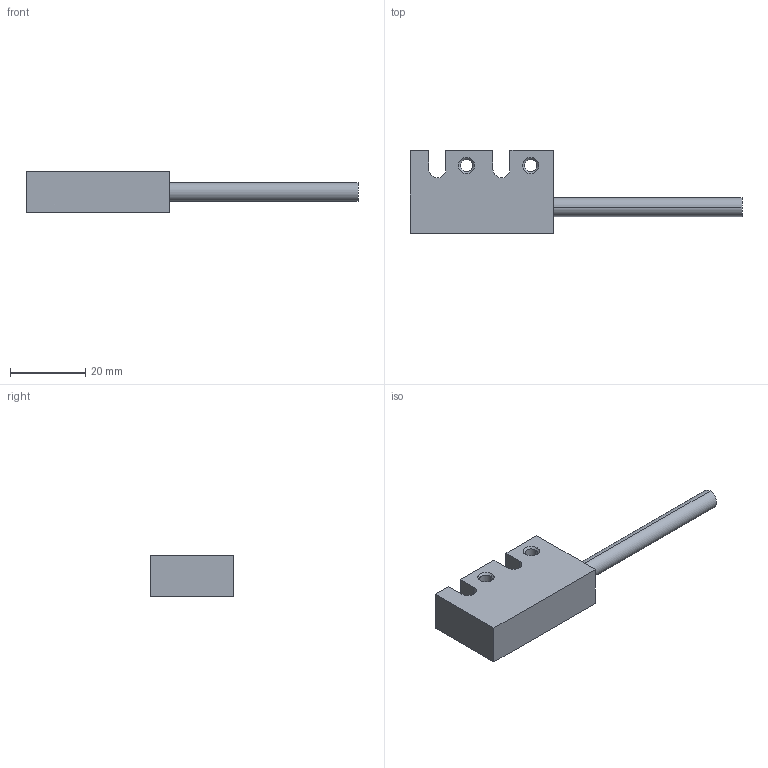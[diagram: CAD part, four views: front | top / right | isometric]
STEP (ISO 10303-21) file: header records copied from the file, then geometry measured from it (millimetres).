
FILE_DESCRIPTION (( 'STEP AP203' ), '1' );
FILE_NAME ('TMLS-25B.STEP', '2017-10-05T17:50:16', ( '' ), ( '' ), 'SwSTEP 2.0', 'SolidWorks 2014', '' );
FILE_SCHEMA (( 'CONFIG_CONTROL_DESIGN' ));
Length unit declared in the file: millimetre
Products named in the file (1): TMLS-25B
Bounding box: 88 x 22 x 11 mm (x, y, z)
Volume: 9313.9 mm3; surface area: 4115.1 mm2
Topology: 1 solids, 1 shells, 29 faces, 70 edges, 44 vertices
Faces by surface type: plane 13, cylinder 8, cone 8
Entity records: 929 total; most frequent: DIRECTION 154, CARTESIAN_POINT 144, ORIENTED_EDGE 140, EDGE_CURVE 70, AXIS2_PLACEMENT_3D 54, VECTOR 46, LINE 46, VERTEX_POINT 44
